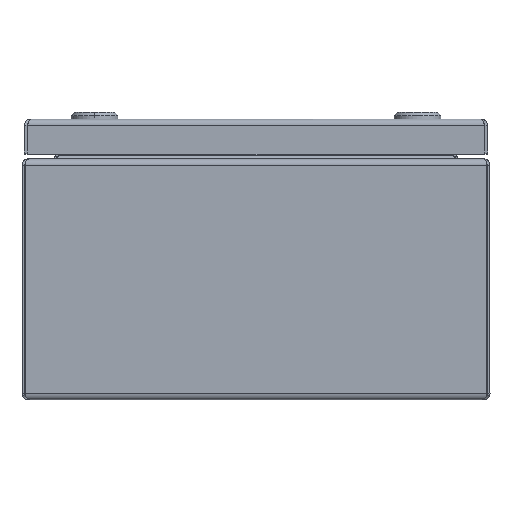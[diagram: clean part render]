
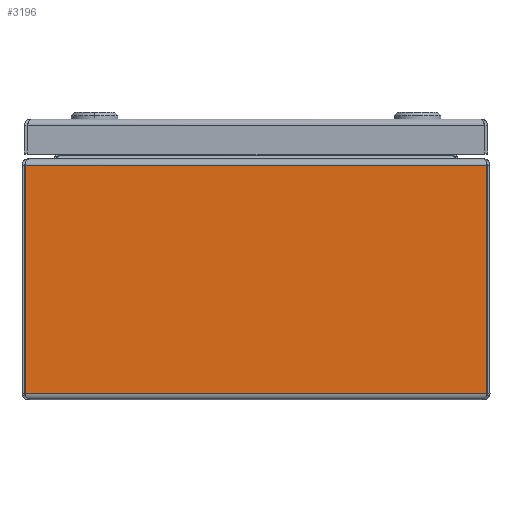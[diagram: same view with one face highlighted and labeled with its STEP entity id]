
A CAD part, left-side view. The second image highlights one B-rep face of the part: STEP entity #3196.
In plain terms, the highlighted planar face has unit normal (-1, 0, 0).
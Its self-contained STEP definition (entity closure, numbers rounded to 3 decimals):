
#2180 = EDGE_CURVE ( 'NONE', #98653, #10549, #2608, .T. ) ;
#2297 = VERTEX_POINT ( 'NONE', #72135 ) ;
#2608 = LINE ( 'NONE', #35333, #36399 ) ;
#3196 = ADVANCED_FACE ( 'NONE', ( #59826 ), #30275, .F. ) ;
#10549 = VERTEX_POINT ( 'NONE', #85983 ) ;
#10784 = ORIENTED_EDGE ( 'NONE', *, *, #51307, .F. ) ;
#12624 = CARTESIAN_POINT ( 'NONE',  ( -100., -1100., 100.3 ) ) ;
#20190 = DIRECTION ( 'NONE',  ( 0., 1., 0. ) ) ;
#21093 = VECTOR ( 'NONE', #24231, 1000. ) ;
#24231 = DIRECTION ( 'NONE',  ( 0., 0., -1. ) ) ;
#25966 = LINE ( 'NONE', #73697, #40381 ) ;
#30275 = PLANE ( 'NONE',  #69881 ) ;
#31456 = CARTESIAN_POINT ( 'NONE',  ( -100., -98.623, 100.3 ) ) ;
#33978 = VECTOR ( 'NONE', #100063, 1000. ) ;
#35333 = CARTESIAN_POINT ( 'NONE',  ( -100., 98.623, 100.3 ) ) ;
#36399 = VECTOR ( 'NONE', #42598, 1000. ) ;
#40381 = VECTOR ( 'NONE', #20190, 1000. ) ;
#42598 = DIRECTION ( 'NONE',  ( 0., 0., 1. ) ) ;
#45459 = CARTESIAN_POINT ( 'NONE',  ( -100., -98.623, 100.3 ) ) ;
#50051 = ORIENTED_EDGE ( 'NONE', *, *, #2180, .F. ) ;
#51307 = EDGE_CURVE ( 'NONE', #2297, #98653, #25966, .T. ) ;
#53270 = LINE ( 'NONE', #45459, #21093 ) ;
#56320 = EDGE_CURVE ( 'NONE', #97871, #10549, #90720, .T. ) ;
#59826 = FACE_OUTER_BOUND ( 'NONE', #67584, .T. ) ;
#61897 = DIRECTION ( 'NONE',  ( 1., 0., 0. ) ) ;
#65064 = ORIENTED_EDGE ( 'NONE', *, *, #56320, .T. ) ;
#67584 = EDGE_LOOP ( 'NONE', ( #50051, #10784, #94109, #65064 ) ) ;
#67594 = DIRECTION ( 'NONE',  ( 0., 0., -1. ) ) ;
#68369 = CARTESIAN_POINT ( 'NONE',  ( -100., -1100., 100.3 ) ) ;
#69881 = AXIS2_PLACEMENT_3D ( 'NONE', #12624, #61897, #67594 ) ;
#72135 = CARTESIAN_POINT ( 'NONE',  ( -100., -98.623, 2.7 ) ) ;
#73697 = CARTESIAN_POINT ( 'NONE',  ( -100., -1100., 2.7 ) ) ;
#85983 = CARTESIAN_POINT ( 'NONE',  ( -100., 98.623, 100.3 ) ) ;
#90720 = LINE ( 'NONE', #68369, #33978 ) ;
#93508 = CARTESIAN_POINT ( 'NONE',  ( -100., 98.623, 2.7 ) ) ;
#94109 = ORIENTED_EDGE ( 'NONE', *, *, #100322, .F. ) ;
#97871 = VERTEX_POINT ( 'NONE', #31456 ) ;
#98653 = VERTEX_POINT ( 'NONE', #93508 ) ;
#100063 = DIRECTION ( 'NONE',  ( 0., 1., 0. ) ) ;
#100322 = EDGE_CURVE ( 'NONE', #97871, #2297, #53270, .T. ) ;
